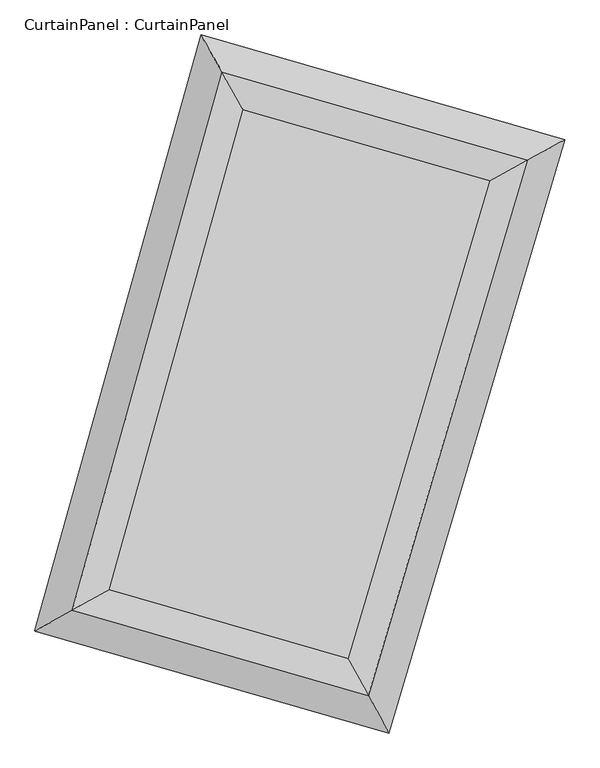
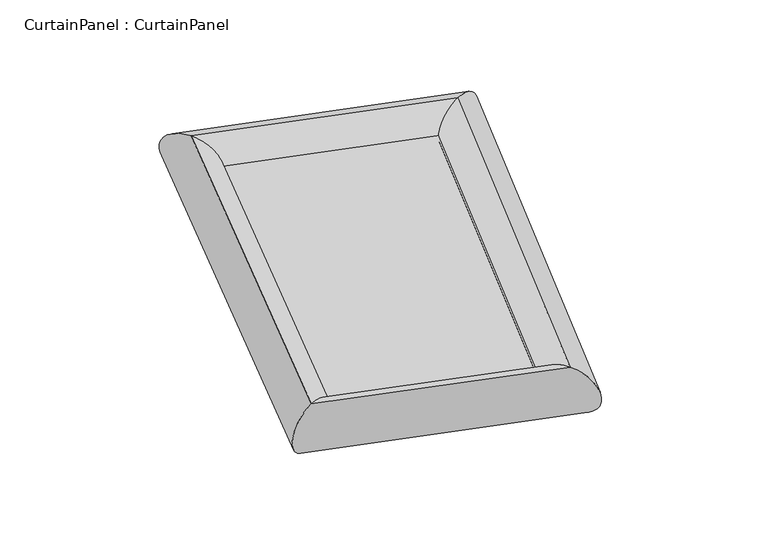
"""IFC4 building model written with IfcOpenShell, lengths in millimetres: plate geometry, CurtainPanel : CurtainPanel."""

from ifc_helpers import new_model, si_unit, frame, origin, origin_with_axes, place, context, project, spatial, polyline, ellipse_curve, outline, extrude, source, transform, mapped, element, save
from ifc_brep_helpers import cylinder_surface, advanced_brep


def curtainpanel_curtainpanel_019cb1ba(model_context):
    return source(origin(), model_context, "Body", "SolidModel", [
        extrude(outline(polyline([(2932.5122481, 2932.5122481), (4022.6889817, 6841.3131751), (6243.4218136, 6202.2987464), (5089.3769566, 2311.8758304), (2932.5122481, 2932.5122481)])), origin_with_axes(), (0.0, 0.0, 1.0), 20.0),
        advanced_brep(
        [(2932.5122481, 2932.5122481, -220.0), (2932.5122481, 2932.5122481, 220.0), (5089.3769566, 2311.8758304, 220.0), (5089.3769566, 2311.8758304, -220.0), (6243.4218136, 6202.2987464, 220.0), (6243.4218136, 6202.2987464, -220.0), (4022.6889817, 6841.3131751, 220.0), (4022.6889817, 6841.3131751, -220.0)],
        [
            (0, 1, ellipse_curve(frame((2932.5122481, 2932.5122481, 0.0), z_axis=(0.4875770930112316, -0.8730799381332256, 0.0), x_axis=(-0.8730799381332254, -0.4875770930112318, 0.0)), 309.860882, 220.0)),
            (1, 2),
            (2, 3, ellipse_curve(frame((5089.3769566, 2311.8758304, 0.0), z_axis=(-0.8770433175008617, -0.4804113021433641, 0.0), x_axis=(-0.4804113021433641, 0.8770433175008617, 0.0)), 309.860882, 220.0)),
            (3, 0),
            (1, 0, ellipse_curve(frame((2932.5122481, 2932.5122481, 0.0), z_axis=(0.4875770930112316, -0.8730799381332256, 0.0), x_axis=(-0.8730799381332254, -0.4875770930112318, 0.0)), 309.860882, 220.0)),
            (3, 2, ellipse_curve(frame((5089.3769566, 2311.8758304, 0.0), z_axis=(-0.8770433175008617, -0.4804113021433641, 0.0), x_axis=(-0.4804113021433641, 0.8770433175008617, 0.0)), 309.860882, 220.0)),
            (2, 4),
            (4, 5, ellipse_curve(frame((6243.4218136, 6202.2987464, 0.0), z_axis=(0.4804113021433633, -0.8770433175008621, 0.0), x_axis=(-0.8770433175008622, -0.48041130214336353, 0.0)), 312.4087334, 220.0)),
            (5, 3),
            (5, 4, ellipse_curve(frame((6243.4218136, 6202.2987464, 0.0), z_axis=(0.4804113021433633, -0.8770433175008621, 0.0), x_axis=(-0.8770433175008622, -0.48041130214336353, 0.0)), 312.4087334, 220.0)),
            (4, 6),
            (6, 7, ellipse_curve(frame((4022.6889817, 6841.3131751, 0.0), z_axis=(0.8730799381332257, 0.4875770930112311, 0.0), x_axis=(0.4875770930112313, -0.8730799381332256, 0.0)), 312.4087334, 220.0)),
            (7, 5),
            (7, 6, ellipse_curve(frame((4022.6889817, 6841.3131751, 0.0), z_axis=(0.8730799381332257, 0.4875770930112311, 0.0), x_axis=(0.4875770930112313, -0.8730799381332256, 0.0)), 312.4087334, 220.0)),
            (6, 1),
            (0, 7),
        ],
        [
            cylinder_surface(frame((2932.5122481, 2932.5122481, 0.0), z_axis=(-0.9610056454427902, 0.27652874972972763, 0.0), x_axis=(0.27652874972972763, 0.9610056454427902, 0.0)), 220.0),
            cylinder_surface(frame((5089.3769566, 2311.8758304, 0.0), z_axis=(-0.2843889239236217, -0.9587089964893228, 0.0), x_axis=(-0.9587089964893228, 0.2843889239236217, 0.0)), 220.0),
            cylinder_surface(frame((6243.4218136, 6202.2987464, 0.0), z_axis=(0.9610056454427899, -0.27652874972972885, 0.0), x_axis=(-0.27652874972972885, -0.9610056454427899, 0.0)), 220.0),
            cylinder_surface(frame((4022.6889817, 6841.3131751, 0.0), z_axis=(0.26865003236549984, 0.9632378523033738, 0.0), x_axis=(0.9632378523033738, -0.26865003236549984, 0.0)), 220.0),
        ],
        [
            (0, [[1, 2, 3, 4]]),
            (0, [[5, -4, 6, -2]]),
            (1, [[-3, 7, 8, 9]]),
            (1, [[-6, -9, 10, -7]]),
            (2, [[-8, 11, 12, 13]]),
            (2, [[-10, -13, 14, -11]]),
            (3, [[-12, 15, -1, 16]]),
            (3, [[-14, -16, -5, -15]]),
        ],
    ),
    ])


if __name__ == "__main__":
    model = new_model("IFC4")
    model_context = context("Model", 3, world=origin())
    ifc_project = project(units=[si_unit("LENGTHUNIT", "METRE", prefix="MILLI")], contexts=[model_context])
    site = spatial("IfcSite", under=ifc_project)
    building = spatial("IfcBuilding", under=site)
    placement = place(None, origin())
    curtainpanel_curtainpanel_shape = curtainpanel_curtainpanel_019cb1ba(model_context)
    element("IfcPlate", 1, ObjectType="CurtainPanel : CurtainPanel", at=placement, inside=building, context=model_context, shape_type="MappedRepresentation", body=[
        mapped(curtainpanel_curtainpanel_shape, transform((0.0, 0.0, 0.0), x_axis=(1.0, 0.0, 0.0), y_axis=(0.0, 1.0, 0.0), z_axis=(0.0, 0.0, 1.0))),
    ])
    save(model, "model.ifc")
